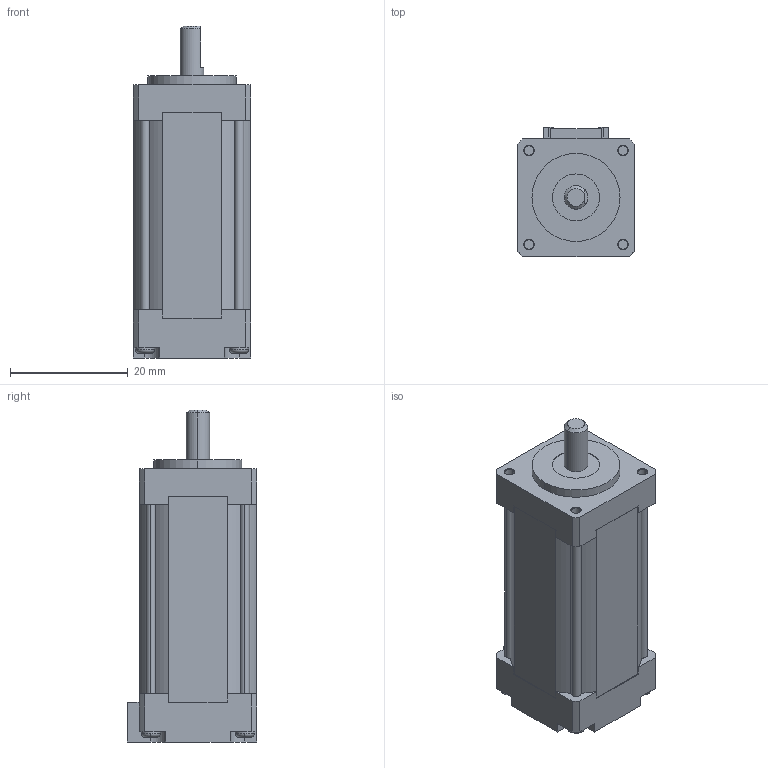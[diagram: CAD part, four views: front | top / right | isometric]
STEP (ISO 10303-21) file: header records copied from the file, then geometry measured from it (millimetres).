
FILE_DESCRIPTION (( 'STEP AP214' ), '1' );
FILE_NAME ('TS3692N42.STEP', '2011-09-15T08:55:45', ( '' ), ( '' ), 'SwSTEP 2.0', 'SolidWorks 2010', '' );
FILE_SCHEMA (( 'AUTOMOTIVE_DESIGN' ));
Length unit declared in the file: millimetre
Products named in the file (1): TS3692N42
Bounding box: 20 x 22 x 56.5 mm (x, y, z)
Volume: 17509.8 mm3; surface area: 5497.4 mm2
Topology: 1 solids, 1 shells, 226 faces, 630 edges, 412 vertices
Faces by surface type: plane 112, cylinder 94, cone 12, torus 8
Entity records: 7838 total; most frequent: CARTESIAN_POINT 1443, DIRECTION 1296, ORIENTED_EDGE 1260, EDGE_CURVE 630, AXIS2_PLACEMENT_3D 473, VERTEX_POINT 412, LINE 350, VECTOR 350
